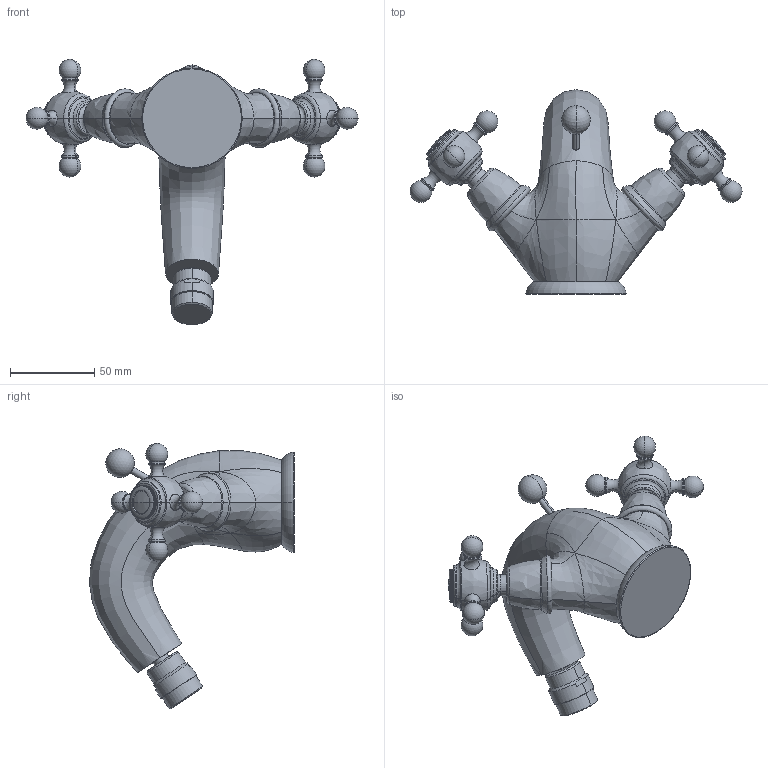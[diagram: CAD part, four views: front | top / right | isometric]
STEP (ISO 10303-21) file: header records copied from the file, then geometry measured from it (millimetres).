
FILE_DESCRIPTION((''),'2;1');
FILE_NAME('F5092_2_FILE_3D','2013-07-09T',('ivanv'),(''),'PRO/ENGINEER BY PARAMETRIC TECHNOLOGY CORPORATION, 2012130','PRO/ENGINEER BY PARAMETRIC TECHNOLOGY CORPORATION, 2012130','');
FILE_SCHEMA(('CONFIG_CONTROL_DESIGN'));
Length unit declared in the file: millimetre
Products named in the file (1): F5092_2_FILE_3D
Bounding box: 197.31 x 121.59 x 157.66 mm (x, y, z)
Volume: 414578.7 mm3; surface area: 53286 mm2
Topology: 1 solids, 4 shells, 747 faces, 2025 edges, 1281 vertices
Faces by surface type: plane 344, cylinder 209, torus 108, bspline 38, cone 26, sphere 22
Entity records: 30196 total; most frequent: CARTESIAN_POINT 11849, ORIENTED_EDGE 4006, DIRECTION 3700, EDGE_CURVE 2003, AXIS2_PLACEMENT_3D 1416, VERTEX_POINT 1281, VECTOR 868, LINE 868
